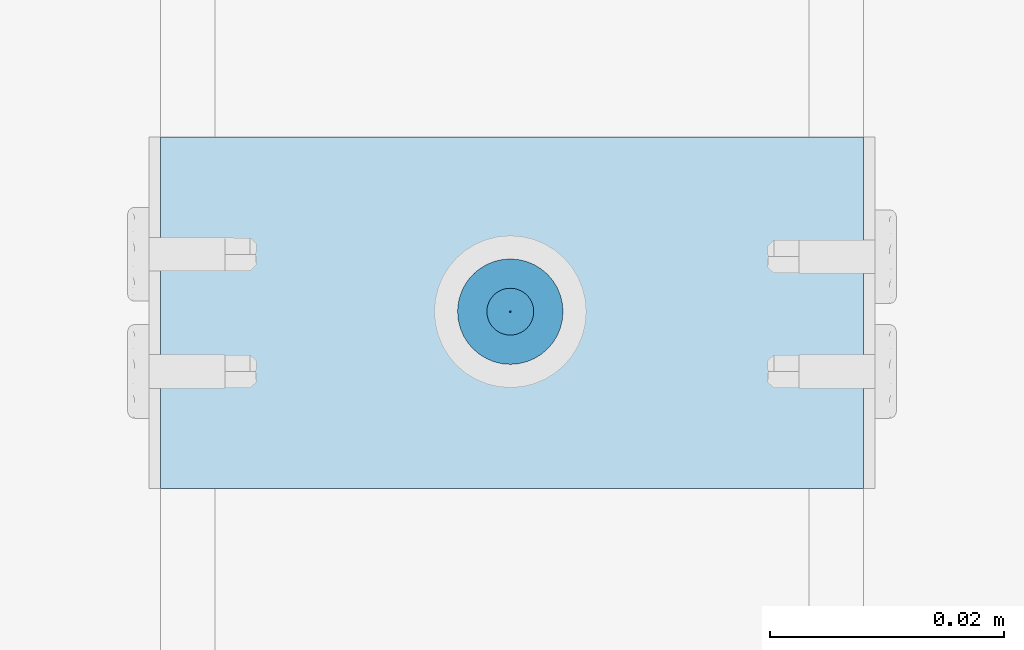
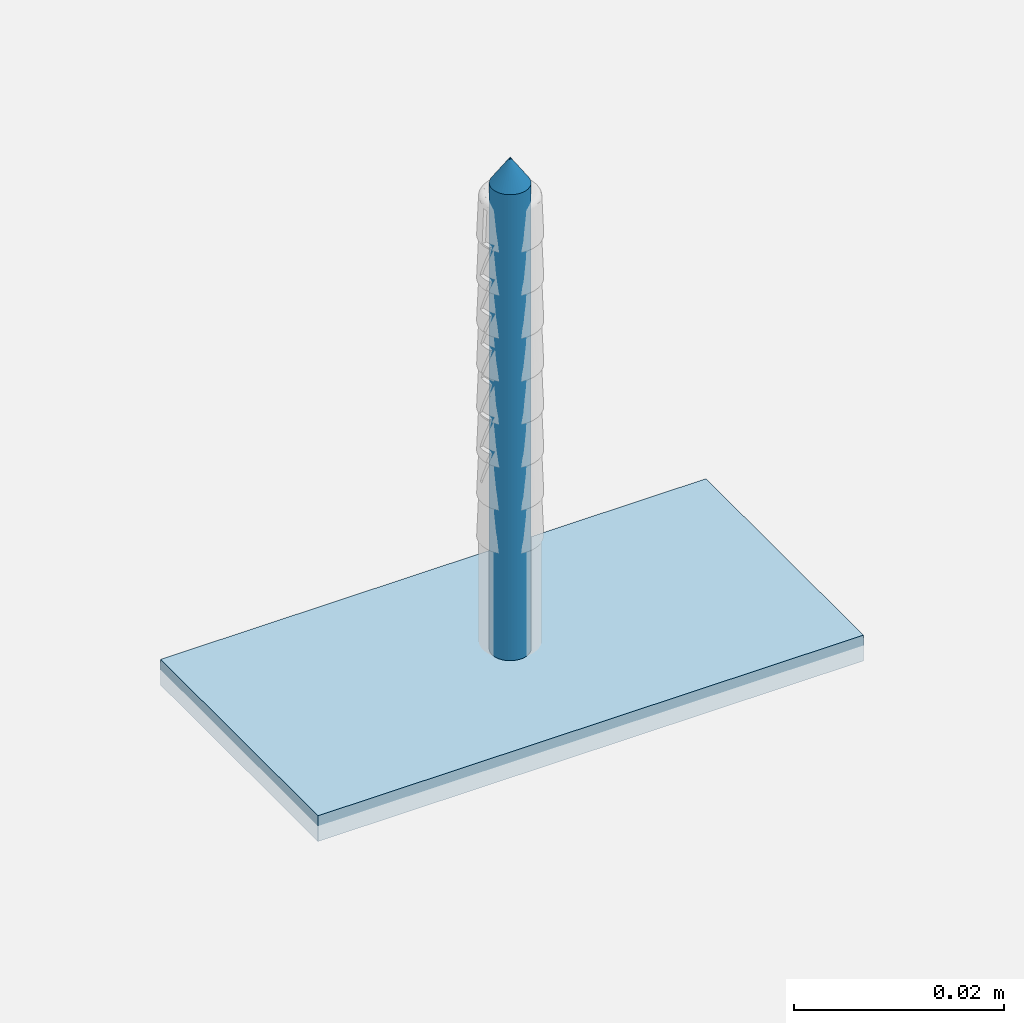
# One storey, part 5 of 62: 2 slabs.
"""IFC2X3 building model written with IfcOpenShell, lengths in millimetres."""

from ifc_helpers import new_model, entity, si_unit, converted_unit, direction, frame, origin, origin_with_axes, place, context, project, spatial, faceted_brep, element, save


model = new_model("IFC2X3")

# Units and contexts
model_context = context("Model", 3, precision=1e-05, world=origin(), true_north=direction((0.0, 1.0, 0.0)))
ifc_project = project(units=[si_unit("LENGTHUNIT", "METRE", prefix="MILLI"), si_unit("AREAUNIT", "SQUARE_METRE"), si_unit("VOLUMEUNIT", "CUBIC_METRE"), converted_unit("PLANEANGLEUNIT", "DEGREE", entity("IfcPlaneAngleMeasure", 0.01745), si_unit("PLANEANGLEUNIT", "RADIAN"), dimensions=[0, 0, 0, 0, 0, 0, 0]), si_unit("SOLIDANGLEUNIT", "STERADIAN"), si_unit("MASSUNIT", "GRAM"), si_unit("TIMEUNIT", "SECOND"), si_unit("THERMODYNAMICTEMPERATUREUNIT", "DEGREE_CELSIUS"), si_unit("LUMINOUSINTENSITYUNIT", "LUMEN")], contexts=[model_context])

# Site, building, storey
site_placement = place(None, origin_with_axes())
site = spatial("IfcSite", under=ifc_project, at=site_placement, Name="Default Site", CompositionType="ELEMENT")
building_placement = place(site_placement, origin_with_axes())
building = spatial("IfcBuilding", under=site, at=building_placement, Name="Default Building", CompositionType="ELEMENT")
storey_placement = place(building_placement, origin_with_axes())
storey = spatial("IfcBuildingStorey", under=building, at=storey_placement, Name="Default Building Storey", CompositionType="ELEMENT", Elevation=0.0)

# Slabs
slab_1_placement = place(storey_placement, frame((3133.040618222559, 1377.603855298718, 1388.424461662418), z_axis=(0.0, -1.0, -6.86006806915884e-13), x_axis=(1.0, 0.0, 0.0)))
element("IfcSlab", 1, at=slab_1_placement, inside=storey, Name="Taśma uszczelniająca piankowa RIGIPS szer.30mm", context=model_context, shape_type="Brep", body=[
    faceted_brep([(59.99999999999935, 0.0, 4.511946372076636e-12), (0.0, 0.0, 0.0), (1.082867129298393e-12, -2.237925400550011e-11, -30.00000000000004), (60.00000000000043, -2.237925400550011e-11, -29.99999999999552), (0.0, 3.00000000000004, 0.0), (1.082867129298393e-12, 2.999999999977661, -30.00000000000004), (60.00000000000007, 3.00000000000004, 0.0), (60.00000000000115, 2.999999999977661, -30.00000000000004)], [[[0, 1, 2, 3]], [[1, 4, 5, 2]], [[4, 6, 7, 5]], [[6, 0, 3, 7]], [[7, 3, 2, 5]], [[0, 6, 4, 1]]]),
])
slab_2_placement = place(storey_placement, frame((6616.179814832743, -41.10778690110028, 1384.974461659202), z_axis=(-6.858158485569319e-13, 6.095830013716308e-13, -1.0), x_axis=(-1.647602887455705e-11, -1.0, -6.095830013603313e-13)))
element("IfcSlab", 2, at=slab_2_placement, inside=storey, Name="Stalowe elementy mocujące", context=model_context, shape_type="Brep", body=[
    faceted_brep([(-1438.31414949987, 3453.283223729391, -0.4642567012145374), (-1435.814149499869, 3453.283223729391, -3.464256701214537), (-1435.78952618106, 3452.97035479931, -3.464256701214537), (-1438.258747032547, 3452.57926863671, -0.4642567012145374), (-1435.71626253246, 3452.665189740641, -3.464256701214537), (-1438.093903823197, 3451.892647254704, -0.4642567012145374), (-1435.596162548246, 3452.375242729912, -3.464256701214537), (-1437.823678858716, 3451.240266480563, -0.4642567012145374), (-1435.432183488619, 3452.107653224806, -3.464256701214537), (-1437.454725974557, 3450.638190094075, -0.4642567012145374), (-1435.228363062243, 3451.869010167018, -3.464256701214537), (-1436.996130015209, 3450.101243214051, -0.4642567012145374), (-1434.989720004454, 3451.665189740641, -3.464256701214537), (-1436.459183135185, 3449.642647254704, -0.4642567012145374), (-1434.722130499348, 3451.501210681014, -3.464256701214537), (-1435.857106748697, 3449.273694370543, -0.4642567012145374), (-1434.432183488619, 3451.381110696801, -3.464256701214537), (-1435.204725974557, 3449.003469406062, -0.4642567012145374), (-1434.12701842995, 3451.307847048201, -3.464256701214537), (-1434.51810459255, 3448.838626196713, -0.4642567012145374), (-1433.814149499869, 3451.283223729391, -3.464256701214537), (-1433.814149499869, 3448.783223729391, -0.4642567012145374), (-1433.501280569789, 3451.307847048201, -3.464256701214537), (-1433.110194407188, 3448.838626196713, -0.4642567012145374), (-1433.19611551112, 3451.381110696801, -3.464256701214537), (-1432.423573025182, 3449.003469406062, -0.4642567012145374), (-1432.906168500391, 3451.501210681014, -3.464256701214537), (-1431.771192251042, 3449.273694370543, -0.4642567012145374), (-1432.638578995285, 3451.665189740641, -3.464256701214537), (-1431.169115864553, 3449.642647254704, -0.4642567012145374), (-1432.399935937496, 3451.869010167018, -3.464256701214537), (-1430.63216898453, 3450.101243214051, -0.4642567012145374), (-1432.196115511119, 3452.107653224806, -3.464256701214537), (-1430.173573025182, 3450.638190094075, -0.4642567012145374), (-1432.032136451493, 3452.375242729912, -3.464256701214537), (-1429.804620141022, 3451.240266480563, -0.4642567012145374), (-1431.912036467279, 3452.665189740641, -3.464256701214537), (-1429.534395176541, 3451.892647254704, -0.4642567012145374), (-1431.838772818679, 3453.596092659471, -3.464256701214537), (-1429.369551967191, 3453.987178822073, -0.4642567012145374), (-1429.314149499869, 3453.283223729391, -0.4642567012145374), (-1431.81414949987, 3453.283223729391, -3.464256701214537), (-1429.369551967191, 3452.57926863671, -0.4642567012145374), (-1431.838772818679, 3452.97035479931, -3.464256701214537), (-1431.912036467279, 3453.901257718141, -3.464256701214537), (-1429.534395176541, 3454.673800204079, -0.4642567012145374), (-1432.032136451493, 3454.19120472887, -3.464256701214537), (-1429.804620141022, 3455.326180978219, -0.4642567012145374), (-1432.196115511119, 3454.458794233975, -3.464256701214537), (-1430.173573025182, 3455.928257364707, -0.4642567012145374), (-1432.399935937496, 3454.697437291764, -3.464256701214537), (-1430.63216898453, 3456.465204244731, -0.4642567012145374), (-1432.638578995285, 3454.901257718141, -3.464256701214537), (-1431.169115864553, 3456.923800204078, -0.4642567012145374), (-1432.906168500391, 3455.065236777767, -3.464256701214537), (-1431.771192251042, 3457.292753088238, -0.4642567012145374), (-1433.19611551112, 3455.185336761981, -3.464256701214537), (-1432.423573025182, 3457.562978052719, -0.4642567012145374), (-1433.501280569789, 3455.258600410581, -3.464256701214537), (-1433.110194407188, 3457.727821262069, -0.4642567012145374), (-1433.814149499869, 3455.283223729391, -3.464256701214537), (-1433.814149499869, 3457.783223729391, -0.4642567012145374), (-1434.34306778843, 3457.752031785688, -0.4642567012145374), (-1434.12701842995, 3455.258600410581, -3.464256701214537), (-1434.432183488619, 3455.185336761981, -3.464256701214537), (-1434.864653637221, 3457.658888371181, -0.4642567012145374), (-1435.371676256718, 3457.505084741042, -0.4642567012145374), (-1434.722130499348, 3455.065236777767, -3.464256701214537), (-1435.857106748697, 3457.292753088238, -0.4642567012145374), (-1434.989720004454, 3454.901257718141, -3.464256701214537), (-1435.228363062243, 3454.697437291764, -3.464256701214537), (-1436.314215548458, 3457.024836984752, -0.4642567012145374), (-1436.736665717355, 3456.705050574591, -0.4642567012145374), (-1437.11860079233, 3456.337827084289, -0.4642567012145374), (-1437.454725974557, 3455.928257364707, -0.4642567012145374), (-1435.432183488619, 3454.458794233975, -3.464256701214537), (-1435.596162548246, 3454.19120472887, -3.464256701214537), (-1437.823678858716, 3455.326180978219, -0.4642567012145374), (-1435.71626253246, 3453.901257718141, -3.464256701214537), (-1438.093903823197, 3454.673800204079, -0.4642567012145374), (-1435.78952618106, 3453.596092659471, -3.464256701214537), (-1438.258747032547, 3453.987178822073, -0.4642567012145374), (-1434.205235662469, 3455.752444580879, 0.2007375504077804), (-1433.814149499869, 3455.78322372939, 0.2007375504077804), (-1434.586691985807, 3455.660865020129, 0.2007375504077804), (-1434.949125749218, 3455.510740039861, 0.2007375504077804), (-1435.283612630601, 3455.305766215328, 0.2007375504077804), (-1435.581916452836, 3455.050990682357, 0.2007375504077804), (-1435.836691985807, 3454.752686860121, 0.2007375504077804), (-1436.04166581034, 3454.41819997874, 0.2007375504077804), (-1436.191790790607, 3454.055766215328, 0.2007375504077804), (-1436.283370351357, 3453.674309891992, 0.2007375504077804), (-1436.314149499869, 3453.283223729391, 0.2007375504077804), (-1436.283370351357, 3452.892137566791, 0.2007375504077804), (-1436.191790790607, 3452.510681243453, 0.2007375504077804), (-1436.04166581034, 3452.148247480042, 0.2007375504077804), (-1435.836691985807, 3451.81376059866, 0.200737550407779), (-1435.581916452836, 3451.515456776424, 0.2007375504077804), (-1435.283612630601, 3451.260681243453, 0.2007375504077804), (-1434.949125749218, 3451.05570741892, 0.2007375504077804), (-1434.586691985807, 3450.905582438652, 0.2007375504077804), (-1433.423063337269, 3450.814002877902, 0.2007375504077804), (-1433.814149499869, 3450.783223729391, 0.2007375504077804), (-1434.205235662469, 3450.814002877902, 0.2007375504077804), (-1433.041607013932, 3450.905582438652, 0.2007375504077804), (-1432.67917325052, 3451.05570741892, 0.2007375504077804), (-1432.344686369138, 3451.260681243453, 0.2007375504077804), (-1432.046382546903, 3451.515456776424, 0.2007375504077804), (-1431.791607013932, 3451.81376059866, 0.2007375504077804), (-1431.586633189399, 3452.148247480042, 0.2007375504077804), (-1431.436508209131, 3452.510681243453, 0.2007375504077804), (-1431.344928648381, 3452.892137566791, 0.2007375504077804), (-1431.314149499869, 3453.283223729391, 0.2007375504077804), (-1431.344928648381, 3453.674309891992, 0.2007375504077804), (-1431.436508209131, 3454.055766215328, 0.2007375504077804), (-1431.586633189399, 3454.41819997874, 0.2007375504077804), (-1431.791607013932, 3454.752686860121, 0.2007375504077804), (-1432.046382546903, 3455.050990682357, 0.2007375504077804), (-1432.344686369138, 3455.305766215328, 0.2007375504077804), (-1432.67917325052, 3455.510740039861, 0.2007375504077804), (-1433.041607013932, 3455.660865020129, 0.2007375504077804), (-1433.423063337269, 3455.752444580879, 0.2007375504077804), (-1433.814149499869, 3453.283223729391, -63.46425670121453), (-1435.789526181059, 3452.97035479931, -60.46425670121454), (-1435.814149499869, 3453.283223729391, -60.46425670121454), (-1435.716262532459, 3452.665189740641, -60.46425670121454), (-1435.596162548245, 3452.375242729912, -60.46425670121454), (-1435.432183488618, 3452.107653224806, -60.46425670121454), (-1435.228363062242, 3451.869010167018, -60.46425670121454), (-1434.989720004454, 3451.665189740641, -60.46425670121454), (-1434.722130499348, 3451.501210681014, -60.46425670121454), (-1434.432183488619, 3451.381110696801, -60.46425670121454), (-1434.127018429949, 3451.307847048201, -60.46425670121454), (-1433.814149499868, 3451.283223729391, -60.46425670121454), (-1433.501280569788, 3451.307847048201, -60.46425670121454), (-1433.196115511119, 3451.381110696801, -60.46425670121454), (-1432.90616850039, 3451.501210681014, -60.46425670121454), (-1432.638578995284, 3451.665189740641, -60.46425670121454), (-1432.399935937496, 3451.869010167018, -60.46425670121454), (-1432.196115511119, 3452.107653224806, -60.46425670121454), (-1432.032136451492, 3452.375242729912, -60.46425670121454), (-1431.912036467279, 3452.665189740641, -60.46425670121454), (-1431.838772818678, 3452.97035479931, -60.46425670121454), (-1431.814149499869, 3453.283223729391, -60.46425670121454), (-1431.838772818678, 3453.596092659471, -60.46425670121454), (-1431.912036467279, 3453.901257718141, -60.46425670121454), (-1432.032136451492, 3454.19120472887, -60.46425670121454), (-1432.196115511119, 3454.458794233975, -60.46425670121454), (-1432.399935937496, 3454.697437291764, -60.46425670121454), (-1432.638578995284, 3454.901257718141, -60.46425670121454), (-1432.90616850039, 3455.065236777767, -60.46425670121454), (-1433.196115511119, 3455.185336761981, -60.46425670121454), (-1433.501280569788, 3455.258600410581, -60.46425670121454), (-1433.814149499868, 3455.283223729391, -60.46425670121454), (-1434.127018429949, 3455.258600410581, -60.46425670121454), (-1434.432183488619, 3455.185336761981, -60.46425670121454), (-1434.722130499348, 3455.065236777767, -60.46425670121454), (-1434.989720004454, 3454.901257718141, -60.46425670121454), (-1435.228363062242, 3454.697437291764, -60.46425670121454), (-1435.432183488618, 3454.458794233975, -60.46425670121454), (-1435.596162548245, 3454.19120472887, -60.46425670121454), (-1435.716262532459, 3453.901257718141, -60.46425670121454), (-1435.789526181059, 3453.596092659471, -60.46425670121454), (-1435.814149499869, 3453.783223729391, 0.04999999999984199), (-1436.04166581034, 3454.41819997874, 0.04999999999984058), (-1436.191790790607, 3454.055766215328, 0.04999999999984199), (-1435.814149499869, 3452.783223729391, 0.04999999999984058), (-1434.314149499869, 3453.783223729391, 0.04999999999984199), (-1434.314149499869, 3455.28322372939, 0.04999999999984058), (-1433.314149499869, 3455.28322372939, 0.04999999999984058), (-1433.314149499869, 3453.783223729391, 0.04999999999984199), (-1431.814149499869, 3453.783223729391, 0.04999999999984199), (-1431.814149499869, 3452.783223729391, 0.04999999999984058), (-1433.314149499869, 3452.783223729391, 0.04999999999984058), (-1433.314149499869, 3451.283223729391, 0.04999999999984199), (-1434.314149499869, 3451.283223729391, 0.04999999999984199), (-1434.314149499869, 3452.783223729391, 0.04999999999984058), (-1436.283370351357, 3453.674309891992, 0.04999999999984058), (-1436.314149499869, 3453.283223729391, 0.04999999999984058), (-1436.283370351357, 3452.892137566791, 0.04999999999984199), (-1436.191790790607, 3452.510681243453, 0.04999999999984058), (-1436.04166581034, 3452.148247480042, 0.04999999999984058), (-1435.836691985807, 3451.81376059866, 0.04999999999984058), (-1435.581916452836, 3451.515456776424, 0.04999999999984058), (-1435.283612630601, 3451.260681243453, 0.04999999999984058), (-1434.949125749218, 3451.05570741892, 0.04999999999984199), (-1434.586691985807, 3450.905582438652, 0.04999999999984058), (-1434.205235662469, 3450.814002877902, 0.04999999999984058), (-1433.814149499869, 3450.783223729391, 0.04999999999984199), (-1433.423063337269, 3450.814002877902, 0.04999999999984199), (-1433.041607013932, 3450.905582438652, 0.04999999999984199), (-1432.67917325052, 3451.05570741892, 0.04999999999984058), (-1432.344686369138, 3451.260681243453, 0.04999999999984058), (-1432.046382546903, 3451.515456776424, 0.04999999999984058), (-1431.791607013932, 3451.81376059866, 0.04999999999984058), (-1431.586633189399, 3452.148247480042, 0.04999999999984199), (-1431.436508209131, 3452.510681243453, 0.04999999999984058), (-1431.344928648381, 3452.892137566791, 0.04999999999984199), (-1431.314149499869, 3453.283223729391, 0.04999999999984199), (-1431.344928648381, 3453.674309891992, 0.04999999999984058), (-1431.436508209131, 3454.055766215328, 0.04999999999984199), (-1431.586633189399, 3454.41819997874, 0.04999999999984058), (-1431.791607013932, 3454.752686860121, 0.04999999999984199), (-1432.046382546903, 3455.050990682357, 0.04999999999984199), (-1432.344686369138, 3455.305766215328, 0.04999999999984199), (-1432.67917325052, 3455.510740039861, 0.04999999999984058), (-1433.041607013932, 3455.660865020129, 0.04999999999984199), (-1433.423063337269, 3455.752444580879, 0.04999999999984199), (-1433.814149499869, 3455.78322372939, 0.04999999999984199), (-1434.205235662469, 3455.752444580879, 0.04999999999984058), (-1434.586691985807, 3455.660865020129, 0.04999999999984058), (-1434.949125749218, 3455.510740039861, 0.04999999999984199), (-1435.283612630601, 3455.305766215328, 0.04999999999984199), (-1435.581916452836, 3455.050990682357, 0.04999999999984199), (-1435.836691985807, 3454.752686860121, 0.04999999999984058), (-1434.314149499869, 3452.783223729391, -1.79926244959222), (-1434.314149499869, 3451.283223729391, -1.799262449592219), (-1433.314149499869, 3451.283223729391, -1.799262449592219), (-1433.314149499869, 3452.783223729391, -1.79926244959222), (-1431.81414949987, 3452.783223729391, -1.79926244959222), (-1431.81414949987, 3453.783223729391, -1.799262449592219), (-1433.314149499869, 3453.783223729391, -1.799262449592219), (-1433.314149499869, 3455.28322372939, -1.79926244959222), (-1434.314149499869, 3455.28322372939, -1.79926244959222), (-1434.314149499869, 3453.783223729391, -1.799262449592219), (-1435.814149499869, 3453.783223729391, -1.799262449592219), (-1435.814149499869, 3452.783223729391, -1.79926244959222)], [[[0, 1, 2, 3]], [[4, 5, 3, 2]], [[6, 7, 5, 4]], [[7, 6, 8, 9]], [[10, 11, 9, 8]], [[11, 10, 12, 13]], [[14, 15, 13, 12]], [[16, 17, 15, 14]], [[17, 16, 18, 19]], [[20, 21, 19, 18]], [[21, 20, 22, 23]], [[24, 25, 23, 22]], [[26, 27, 25, 24]], [[27, 26, 28, 29]], [[30, 31, 29, 28]], [[31, 30, 32, 33]], [[34, 35, 33, 32]], [[36, 37, 35, 34]], [[38, 39, 40, 41]], [[41, 40, 42, 43]], [[37, 36, 43, 42]], [[44, 45, 39, 38]], [[46, 47, 45, 44]], [[47, 46, 48, 49]], [[50, 51, 49, 48]], [[51, 50, 52, 53]], [[54, 55, 53, 52]], [[56, 57, 55, 54]], [[57, 56, 58, 59]], [[60, 61, 59, 58]], [[62, 61, 63]], [[61, 60, 63]], [[63, 64, 62]], [[64, 65, 62]], [[66, 65, 64]], [[64, 67, 66]], [[67, 68, 66]], [[69, 70, 71]], [[70, 72, 71]], [[71, 68, 69]], [[68, 67, 69]], [[70, 73, 72]], [[74, 73, 75]], [[73, 70, 75]], [[76, 77, 74, 75]], [[78, 79, 77, 76]], [[79, 78, 80, 81]], [[1, 0, 81, 80]], [[82, 83, 62]], [[83, 61, 62]], [[62, 65, 82]], [[65, 84, 82]], [[66, 68, 84]], [[68, 85, 84]], [[84, 65, 66]], [[86, 85, 71]], [[85, 68, 71]], [[72, 73, 87]], [[87, 86, 72]], [[86, 71, 72]], [[88, 87, 74]], [[87, 73, 74]], [[77, 89, 88, 74]], [[79, 90, 89, 77]], [[90, 79, 81, 91]], [[0, 92, 91, 81]], [[92, 0, 3, 93]], [[5, 94, 93, 3]], [[7, 95, 94, 5]], [[95, 7, 9, 96]], [[11, 97, 96, 9]], [[97, 11, 13, 98]], [[15, 99, 98, 13]], [[17, 100, 99, 15]], [[23, 101, 102, 21]], [[21, 102, 103, 19]], [[100, 17, 19, 103]], [[25, 104, 101, 23]], [[27, 105, 104, 25]], [[105, 27, 29, 106]], [[31, 107, 106, 29]], [[107, 31, 33, 108]], [[35, 109, 108, 33]], [[37, 110, 109, 35]], [[110, 37, 42, 111]], [[40, 112, 111, 42]], [[112, 40, 39, 113]], [[45, 114, 113, 39]], [[47, 115, 114, 45]], [[115, 47, 49, 116]], [[51, 117, 116, 49]], [[117, 51, 53, 118]], [[55, 119, 118, 53]], [[57, 120, 119, 55]], [[120, 57, 59, 121]], [[61, 83, 121, 59]], [[122, 123, 124]], [[122, 125, 123]], [[122, 126, 125]], [[127, 126, 122]], [[122, 128, 127]], [[129, 128, 122]], [[122, 130, 129]], [[122, 131, 130]], [[132, 131, 122]], [[122, 133, 132]], [[134, 133, 122]], [[122, 135, 134]], [[122, 136, 135]], [[137, 136, 122]], [[122, 138, 137]], [[139, 138, 122]], [[122, 140, 139]], [[122, 141, 140]], [[142, 141, 122]], [[122, 143, 142]], [[144, 143, 122]], [[122, 145, 144]], [[122, 146, 145]], [[147, 146, 122]], [[122, 148, 147]], [[149, 148, 122]], [[122, 150, 149]], [[122, 151, 150]], [[152, 151, 122]], [[122, 153, 152]], [[154, 153, 122]], [[122, 155, 154]], [[122, 156, 155]], [[157, 156, 122]], [[122, 158, 157]], [[159, 158, 122]], [[122, 160, 159]], [[122, 161, 160]], [[162, 161, 122]], [[124, 162, 122]], [[1, 124, 123, 2]], [[125, 4, 2, 123]], [[126, 6, 4, 125]], [[6, 126, 127, 8]], [[128, 10, 8, 127]], [[10, 128, 129, 12]], [[130, 14, 12, 129]], [[131, 16, 14, 130]], [[16, 131, 132, 18]], [[133, 20, 18, 132]], [[20, 133, 134, 22]], [[135, 24, 22, 134]], [[136, 26, 24, 135]], [[26, 136, 137, 28]], [[138, 30, 28, 137]], [[30, 138, 139, 32]], [[140, 34, 32, 139]], [[141, 36, 34, 140]], [[144, 38, 41, 143]], [[143, 41, 43, 142]], [[36, 141, 142, 43]], [[145, 44, 38, 144]], [[146, 46, 44, 145]], [[46, 146, 147, 48]], [[148, 50, 48, 147]], [[50, 148, 149, 52]], [[150, 54, 52, 149]], [[151, 56, 54, 150]], [[56, 151, 152, 58]], [[153, 60, 58, 152]], [[60, 153, 154, 63]], [[155, 64, 63, 154]], [[156, 67, 64, 155]], [[67, 156, 157, 69]], [[158, 70, 69, 157]], [[70, 158, 159, 75]], [[160, 76, 75, 159]], [[161, 78, 76, 160]], [[78, 161, 162, 80]], [[124, 1, 80, 162]], [[163, 164, 165, 166]], [[163, 167, 168, 169, 170, 171, 172, 173, 174, 175, 176, 166, 165, 177, 178, 179, 180, 181, 182, 183, 184, 185, 186, 187, 188, 189, 190, 191, 192, 193, 194, 195, 196, 197, 198, 199, 200, 201, 202, 203, 204, 205, 206, 207, 208, 209, 210, 211, 212, 213, 214, 164]], [[199, 198, 112, 113]], [[113, 114, 200, 199]], [[114, 115, 201, 200]], [[202, 201, 115, 116]], [[116, 117, 203, 202]], [[204, 203, 117, 118]], [[118, 119, 205, 204]], [[119, 120, 206, 205]], [[207, 206, 120, 121]], [[121, 83, 208, 207]], [[209, 208, 83, 82]], [[82, 84, 210, 209]], [[84, 85, 211, 210]], [[212, 211, 85, 86]], [[86, 87, 213, 212]], [[214, 213, 87, 88]], [[88, 89, 164, 214]], [[89, 90, 165, 164]], [[92, 93, 179, 178]], [[91, 92, 178, 177]], [[177, 165, 90, 91]], [[93, 94, 180, 179]], [[94, 95, 181, 180]], [[182, 181, 95, 96]], [[96, 97, 183, 182]], [[184, 183, 97, 98]], [[98, 99, 185, 184]], [[99, 100, 186, 185]], [[187, 186, 100, 103]], [[103, 102, 188, 187]], [[189, 188, 102, 101]], [[101, 104, 190, 189]], [[104, 105, 191, 190]], [[192, 191, 105, 106]], [[106, 107, 193, 192]], [[194, 193, 107, 108]], [[108, 109, 195, 194]], [[109, 110, 196, 195]], [[197, 196, 110, 111]], [[111, 112, 198, 197]], [[215, 216, 217, 218, 219, 220, 221, 222, 223, 224, 225, 226]], [[216, 175, 174, 217]], [[215, 176, 175, 216]], [[226, 166, 176, 215]], [[225, 163, 166, 226]], [[224, 167, 163, 225]], [[223, 168, 167, 224]], [[222, 169, 168, 223]], [[221, 170, 169, 222]], [[220, 171, 170, 221]], [[219, 172, 171, 220]], [[218, 173, 172, 219]], [[217, 174, 173, 218]]]),
])

save(model, "model.ifc")
